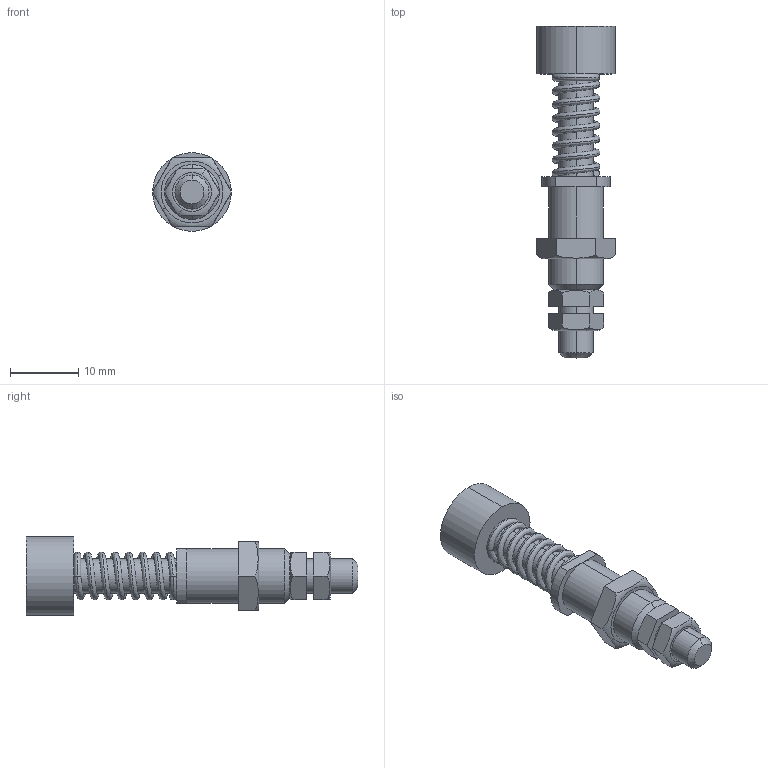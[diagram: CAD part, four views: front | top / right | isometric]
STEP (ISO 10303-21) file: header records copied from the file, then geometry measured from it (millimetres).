
FILE_DESCRIPTION (( 'STEP AP214' ), '1' );
FILE_NAME ('HD-PA8M5S.STEP', '2024-01-25T10:54:49', ( '' ), ( '' ), 'SwSTEP 2.0', 'SolidWorks 2022', '' );
FILE_SCHEMA (( 'AUTOMOTIVE_DESIGN' ));
Length unit declared in the file: millimetre
Products named in the file (4): M5 SCREW; HD-PA8M5S; M8 SCREW; HD-PA8M5S CONTACT
Assembly tree (4 placements, depth 2):
  HD-PA8M5S
    HD-PA8M5S CONTACT
    M5 SCREW  x2
    M8 SCREW
Bounding box: 11.55 x 48.5 x 11.5 mm (x, y, z)
Volume: 2225.4 mm3; surface area: 2928.2 mm2
Topology: 6 solids, 6 shells, 72 faces, 156 edges, 98 vertices
Faces by surface type: plane 36, cylinder 18, torus 12, cone 4, bspline 2
Entity records: 3336 total; most frequent: CARTESIAN_POINT 1793, DIRECTION 302, ORIENTED_EDGE 256, EDGE_CURVE 128, AXIS2_PLACEMENT_3D 125, VERTEX_POINT 80, EDGE_LOOP 68, ADVANCED_FACE 60
